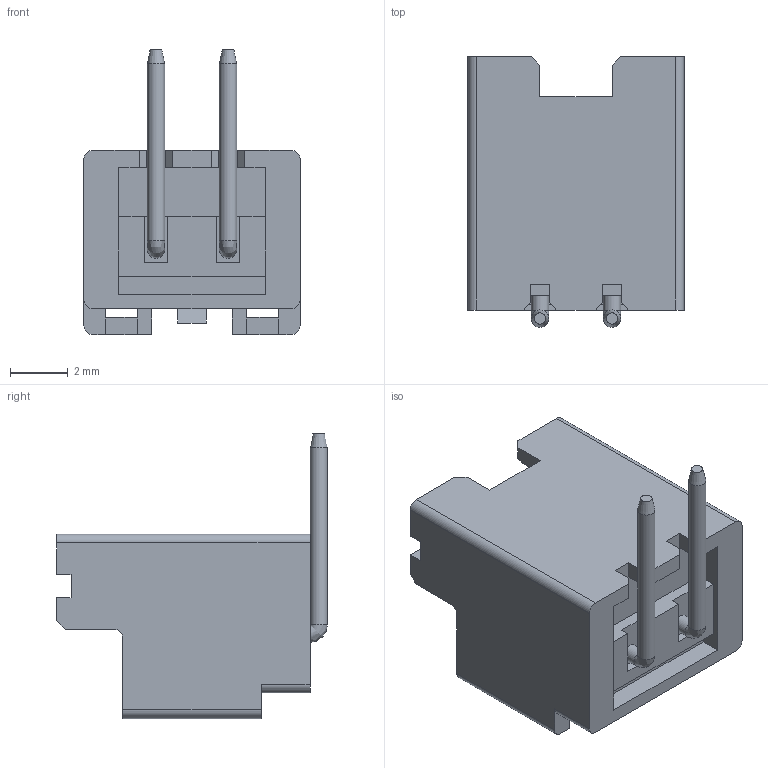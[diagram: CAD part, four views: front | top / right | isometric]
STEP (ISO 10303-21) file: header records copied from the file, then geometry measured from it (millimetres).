
FILE_DESCRIPTION(/* description */ (''),/* implementation_level */ '2;1');
FILE_NAME(/* name */ 'E:\工作文件\现出货3D文件\02宏一\XA\HC-XA-NAW-02(弯针-HCTL)\HC-XA-2AW-02(弯针-HCTL).stp',/* time_stamp */ '2023-12-09T11:42:26+08:00',/* author */ ('admin'),/* organization */ (''),/* preprocessor_version */ 'ST-DEVELOPER v18.1',/* originating_system */ 'Autodesk Inventor 2021',/* authorisation */ '');
FILE_SCHEMA (('AUTOMOTIVE_DESIGN { 1 0 10303 214 3 1 1 }'));
Length unit declared in the file: millimetre
Products named in the file (1): HC-XA-1AW-02(弯针-HCTL)
Bounding box: 7.5 x 9.4 x 9.9 mm (x, y, z)
Volume: 162.7 mm3; surface area: 502.3 mm2
Topology: 1 solids, 1 shells, 129 faces, 370 edges, 240 vertices
Faces by surface type: plane 109, cylinder 14, cone 4, bspline 2
Full cylindrical faces by diameter (mm): 0.6 x6
Entity records: 4362 total; most frequent: CARTESIAN_POINT 788, ORIENTED_EDGE 732, DIRECTION 660, EDGE_CURVE 366, LINE 328, VECTOR 328, VERTEX_POINT 240, AXIS2_PLACEMENT_3D 166
